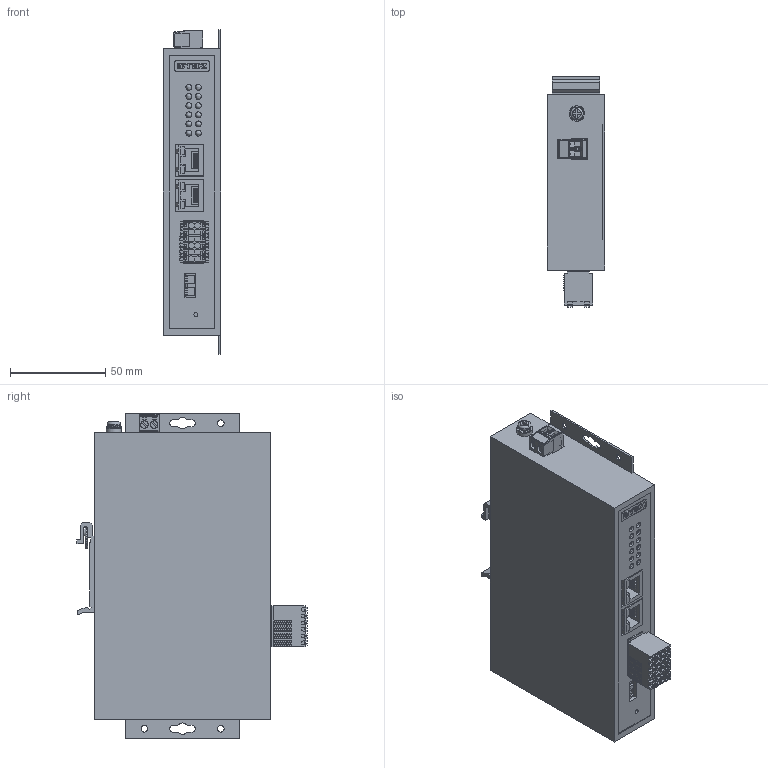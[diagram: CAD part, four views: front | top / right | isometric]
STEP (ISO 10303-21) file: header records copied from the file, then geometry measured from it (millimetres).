
FILE_DESCRIPTION(('TFLEX Exchange Step'),'2;1');
FILE_NAME('70210014_STEZ-GW-2ETH-4RS485.stp', '2025-08-28T09:25:23+03:00',('YLedovskikh'),('Unknown organisation'),'TFLEX Exchange 2023.2','T-FLEX CAD','Unknown authorisation');
FILE_SCHEMA( ('AUTOMOTIVE_DESIGN { 1 0 10303 214 1 1 1 1 }') );
Length unit declared in the file: millimetre
Products named in the file (1): Тело_25:1
Bounding box: 30 x 120.5 x 170 mm (x, y, z)
Volume: 420390.4 mm3; surface area: 60451.1 mm2
Topology: 1 solids, 11 shells, 2327 faces, 6491 edges, 4220 vertices
Faces by surface type: plane 1791, cylinder 333, bspline 180, extrusion 16, torus 4, sphere 3
Full cylindrical faces by diameter (mm): 0.9 x8, 1 x3, 1.3 x14, 3 x14, 3.25 x4, 3.5 x4, 3.821 x2, 4 x4, 4.4 x1, 6.8 x1, 8 x1
Entity records: 77171 total; most frequent: CARTESIAN_POINT 17079, ORIENTED_EDGE 12934, DIRECTION 10908, EDGE_CURVE 6467, VECTOR 5112, LINE 5096, VERTEX_POINT 4220, AXIS2_PLACEMENT_3D 2898
